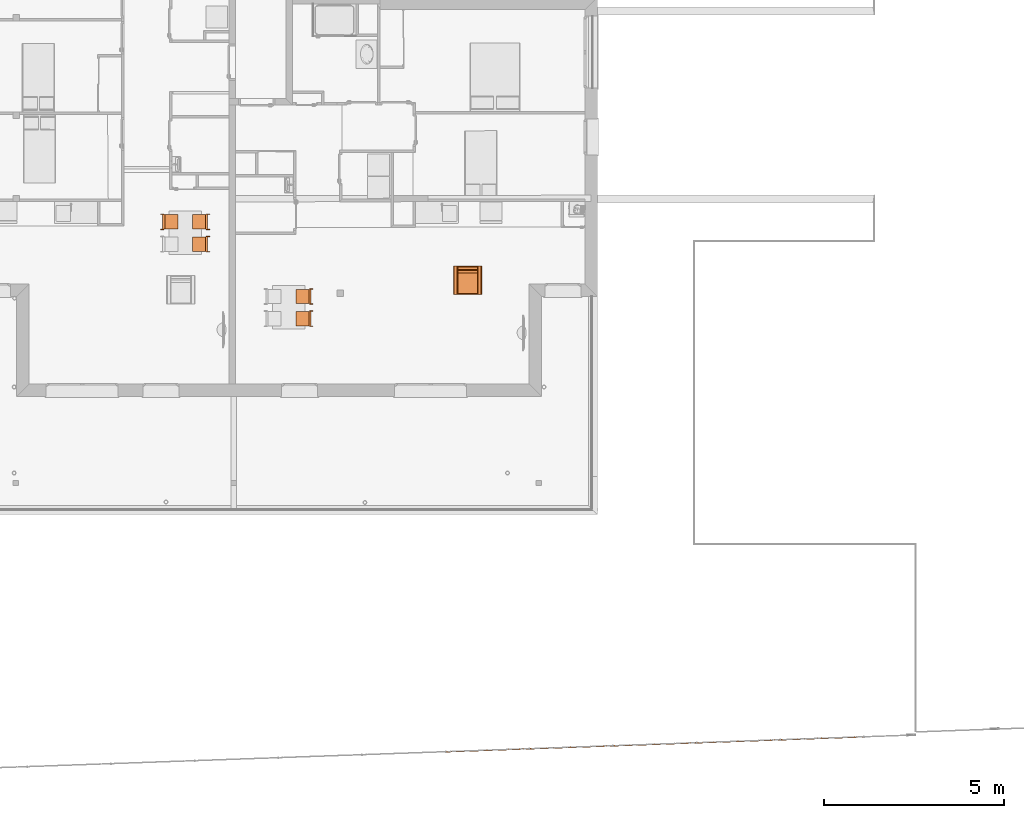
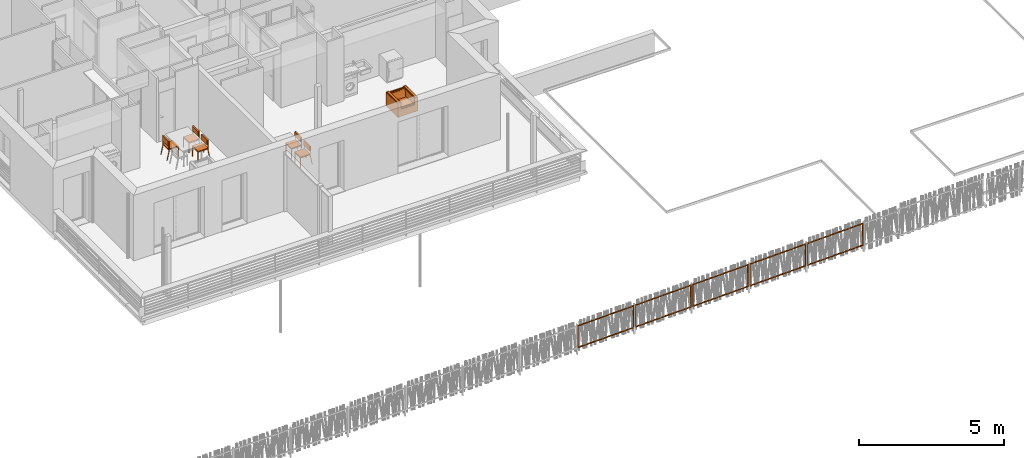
# One storey, part 147 of 171: 11 proxies.
"""IFC2X3 building model written with IfcOpenShell, lengths in millimetres."""

from ifc_helpers import new_model, entity, si_unit, converted_unit, derived_unit, money_unit, direction, frame, origin_with_axes, place, context, subcontext, project, spatial, faceted_brep, source, transform, mapped, type_object, element, save


model = new_model("IFC2X3")

# Units and contexts
model_context = context("Model", 3, precision=0.01, world=origin_with_axes(), true_north=direction((0.0, 1.0)))
body_context = subcontext(model_context, "Body", "Model", "MODEL_VIEW")
ifc_project = project(units=[si_unit("LENGTHUNIT", "METRE", prefix="MILLI"), si_unit("AREAUNIT", "SQUARE_METRE"), si_unit("VOLUMEUNIT", "CUBIC_METRE"), converted_unit("PLANEANGLEUNIT", "DEGREE", entity("IfcPlaneAngleMeasure", 0.0174532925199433), si_unit("PLANEANGLEUNIT", "RADIAN"), dimensions=[0, 0, 0, 0, 0, 0, 0]), money_unit("USD"), converted_unit("TIMEUNIT", "Year", entity("IfcTimeMeasure", 31557600.0), si_unit("TIMEUNIT", "SECOND"), dimensions=[0, 0, 1, 0, 0, 0, 0]), si_unit("MASSUNIT", "GRAM", prefix="KILO"), si_unit("THERMODYNAMICTEMPERATUREUNIT", "DEGREE_CELSIUS"), si_unit("LUMINOUSINTENSITYUNIT", "LUMEN"), si_unit("ENERGYUNIT", "JOULE", prefix="MEGA"), derived_unit("THERMALCONDUCTANCEUNIT", [(si_unit("POWERUNIT", "WATT"), 1), (si_unit("LENGTHUNIT", "METRE"), -1), (si_unit("THERMODYNAMICTEMPERATUREUNIT", "KELVIN"), -1)]), derived_unit("SPECIFICHEATCAPACITYUNIT", [(si_unit("ENERGYUNIT", "JOULE"), 1), (si_unit("MASSUNIT", "GRAM", prefix="KILO"), -1), (si_unit("THERMODYNAMICTEMPERATUREUNIT", "KELVIN"), -1)]), derived_unit("MASSDENSITYUNIT", [(si_unit("MASSUNIT", "GRAM", prefix="KILO"), 1), (si_unit("VOLUMEUNIT", "CUBIC_METRE"), -1)])], contexts=[model_context])

# Site, building, storey
site_placement = place(None, origin_with_axes())
site = spatial("IfcSite", under=ifc_project, at=site_placement, Name="Site", CompositionType="ELEMENT")
building_placement = place(site_placement, origin_with_axes())
building = spatial("IfcBuilding", under=site, at=building_placement, Name="Bâtiment", CompositionType="ELEMENT")
storey_placement = place(building_placement, frame((0.0, 0.0, 3000.0), z_axis=(0.0, 0.0, 1.0), x_axis=(1.0, 0.0, 0.0)))
storey = spatial("IfcBuildingStorey", under=building, at=storey_placement, Name="rdc", CompositionType="ELEMENT", Elevation=3000.0)

# Proxies
building_element_proxy_type = type_object("IfcBuildingElementProxyType", PredefinedType="NOTDEFINED")
shared_shape_1 = source(origin_with_axes(), body_context, "Body", "Brep", [
    faceted_brep([(39.99999978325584, 0.0, 0.0), (19.99999989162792, 0.0, 0.0), (19.99999989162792, 19.99999936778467, 0.0), (39.99999978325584, 19.99999936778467, 0.0), (39.99999978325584, 0.0, 400.0), (19.99999989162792, 0.0, 400.0), (19.99999989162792, 19.99999936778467, 400.0), (39.99999978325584, 19.99999936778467, 400.0)], [[[0, 1, 2, 3]], [[1, 0, 4, 5]], [[2, 1, 5, 6]], [[3, 2, 6, 7]], [[0, 3, 7, 4]], [[5, 4, 7, 6]]]),
    faceted_brep([(419.9999977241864, 0.0, 0.0), (399.9999978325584, 0.0, 0.0), (399.9999978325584, 19.99999936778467, 0.0), (419.9999977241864, 19.99999936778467, 0.0), (419.9999977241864, 0.0, 400.0), (399.9999978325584, 0.0, 400.0), (399.9999978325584, 19.99999936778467, 400.0), (419.9999977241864, 19.99999936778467, 400.0)], [[[0, 1, 2, 3]], [[1, 0, 4, 5]], [[2, 1, 5, 6]], [[3, 2, 6, 7]], [[0, 3, 7, 4]], [[5, 4, 7, 6]]]),
    faceted_brep([(399.9999978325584, 0.0, 400.0000000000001), (39.99999978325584, 0.0, 400.0000000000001), (39.99999978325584, 19.99999936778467, 400.0000000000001), (399.9999978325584, 19.99999936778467, 400.0000000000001), (399.9999978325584, 0.0, 420.0000000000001), (39.99999978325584, 0.0, 420.0000000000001), (39.99999978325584, 19.99999936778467, 420.0000000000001), (399.9999978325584, 19.99999936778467, 420.0000000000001)], [[[0, 1, 2, 3]], [[1, 0, 4, 5]], [[2, 1, 5, 6]], [[3, 2, 6, 7]], [[0, 3, 7, 4]], [[5, 4, 7, 6]]]),
    faceted_brep([(39.99999978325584, 19.99999936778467, 400.0000000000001), (19.99999989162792, 19.99999936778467, 400.0000000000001), (19.99999989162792, 379.9999879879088, 400.0000000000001), (39.99999978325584, 379.9999879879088, 400.0000000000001), (39.99999978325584, 19.99999936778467, 420.0000000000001), (19.99999989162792, 19.99999936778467, 420.0000000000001), (19.99999989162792, 379.9999879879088, 420.0000000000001), (39.99999978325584, 379.9999879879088, 420.0000000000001)], [[[0, 1, 2, 3]], [[1, 0, 4, 5]], [[2, 1, 5, 6]], [[3, 2, 6, 7]], [[0, 3, 7, 4]], [[5, 4, 7, 6]]]),
    faceted_brep([(419.9999977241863, 379.9999879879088, 400.0000000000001), (19.99999989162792, 379.9999879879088, 400.0000000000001), (19.99999989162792, 399.9999873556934, 400.0000000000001), (419.9999977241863, 399.9999873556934, 400.0000000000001), (419.9999977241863, 379.9999879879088, 420.0000000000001), (19.99999989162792, 379.9999879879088, 420.0000000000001), (19.99999989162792, 399.9999873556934, 420.0000000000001), (419.9999977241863, 399.9999873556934, 420.0000000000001)], [[[0, 1, 2, 3]], [[1, 0, 4, 5]], [[2, 1, 5, 6]], [[3, 2, 6, 7]], [[0, 3, 7, 4]], [[5, 4, 7, 6]]]),
    faceted_brep([(419.9999977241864, 19.99999936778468, 400.0000000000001), (399.9999978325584, 19.99999936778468, 400.0000000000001), (399.9999978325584, 379.9999879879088, 400.0000000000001), (419.9999977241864, 379.9999879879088, 400.0000000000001), (419.9999977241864, 19.99999936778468, 420.0000000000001), (399.9999978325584, 19.99999936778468, 420.0000000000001), (399.9999978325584, 379.9999879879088, 420.0000000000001), (419.9999977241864, 379.9999879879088, 420.0000000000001)], [[[0, 1, 2, 3]], [[1, 0, 4, 5]], [[2, 1, 5, 6]], [[3, 2, 6, 7]], [[0, 3, 7, 4]], [[5, 4, 7, 6]]]),
    faceted_brep([(419.9999977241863, 0.0, 400.0), (19.99999989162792, 0.0, 400.0), (19.99999989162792, 399.9999873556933, 400.0), (419.9999977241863, 399.9999873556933, 400.0), (419.9999977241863, 0.0, 450.0), (19.99999989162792, 0.0, 450.0), (19.99999989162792, 399.9999873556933, 450.0), (419.9999977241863, 399.9999873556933, 450.0)], [[[0, 1, 2, 3]], [[1, 0, 4, 5]], [[2, 1, 5, 6]], [[3, 2, 6, 7]], [[0, 3, 7, 4]], [[5, 4, 7, 6]]]),
    faceted_brep([(19.99999989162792, 379.9999879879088, 380.0), (0.0, 379.9999879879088, 380.0), (0.0, 399.9999873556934, 380.0), (19.99999989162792, 399.9999873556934, 380.0), (19.99999989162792, 379.9999879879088, 780.0), (0.0, 379.9999879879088, 780.0), (0.0, 399.9999873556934, 780.0), (19.99999989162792, 399.9999873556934, 780.0)], [[[0, 1, 2, 3]], [[1, 0, 4, 5]], [[2, 1, 5, 6]], [[3, 2, 6, 7]], [[0, 3, 7, 4]], [[5, 4, 7, 6]]]),
    faceted_brep([(439.9999976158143, 379.9999879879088, 380.0), (419.9999977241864, 379.9999879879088, 380.0), (419.9999977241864, 399.9999873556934, 380.0), (439.9999976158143, 399.9999873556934, 380.0), (439.9999976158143, 379.9999879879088, 780.0), (419.9999977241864, 379.9999879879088, 780.0), (419.9999977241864, 399.9999873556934, 780.0), (439.9999976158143, 399.9999873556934, 780.0)], [[[0, 1, 2, 3]], [[1, 0, 4, 5]], [[2, 1, 5, 6]], [[3, 2, 6, 7]], [[0, 3, 7, 4]], [[5, 4, 7, 6]]]),
    faceted_brep([(419.9999977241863, 359.999988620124, 580.0000000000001), (19.99999989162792, 359.999988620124, 580.0000000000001), (19.99999989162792, 419.9999867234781, 580.0000000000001), (419.9999977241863, 419.9999867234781, 580.0000000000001), (419.9999977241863, 359.999988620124, 780.0), (19.99999989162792, 359.999988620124, 780.0), (19.99999989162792, 419.9999867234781, 780.0), (419.9999977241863, 419.9999867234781, 780.0)], [[[0, 1, 2, 3]], [[1, 0, 4, 5]], [[2, 1, 5, 6]], [[3, 2, 6, 7]], [[0, 3, 7, 4]], [[5, 4, 7, 6]]]),
    faceted_brep([(19.99999989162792, 459.9999854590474, 0.0), (0.0, 459.9999854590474, 0.0), (0.0, 479.5709559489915, 4.120326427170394), (19.99999989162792, 479.5709559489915, 4.120326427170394), (19.99999989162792, 379.997669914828, 379.999760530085), (0.0, 379.997669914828, 379.999760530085), (0.0, 399.5686404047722, 384.1200869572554), (19.99999989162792, 399.5686404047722, 384.1200869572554)], [[[0, 1, 2, 3]], [[1, 0, 4, 5]], [[2, 1, 5, 6]], [[3, 2, 6, 7]], [[0, 3, 7, 4]], [[5, 4, 7, 6]]]),
    faceted_brep([(439.9999976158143, 459.9999854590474, 0.0), (419.9999977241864, 459.9999854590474, 0.0), (419.9999977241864, 479.5709559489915, 4.120326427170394), (439.9999976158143, 479.5709559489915, 4.120326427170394), (439.9999976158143, 379.997669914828, 379.999760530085), (419.9999977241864, 379.997669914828, 379.999760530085), (419.9999977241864, 399.5686404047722, 384.1200869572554), (439.9999976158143, 399.5686404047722, 384.1200869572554)], [[[0, 1, 2, 3]], [[1, 0, 4, 5]], [[2, 1, 5, 6]], [[3, 2, 6, 7]], [[0, 3, 7, 4]], [[5, 4, 7, 6]]]),
])
for number, where, z_axis, x_axis, name in (
    (1, (2223118.75109592, -652753.7534204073, 0.0), (0.0, 0.0, 1.0), (-8.510155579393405e-05, -0.9999999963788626, 0.0), "Obj.-027"),
    (2, (2225988.243839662, -654823.1843486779, 0.0), (0.0, 0.0, 1.0), (-8.510155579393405e-05, -0.9999999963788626, 0.0), "Obj.-027"),
    (3, (2223118.698747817, -653368.8788230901, 0.0), (0.0, 0.0, 1.0), (-8.510155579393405e-05, -0.9999999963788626, 0.0), "Obj.-027"),
    (4, (2225988.191491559, -655438.3097513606, 0.0), (0.0, 0.0, 1.0), (-8.510155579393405e-05, -0.9999999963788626, 0.0), "Obj.-027"),
):
    element("IfcBuildingElementProxy", number, at=place(storey_placement, frame(where, z_axis=z_axis, x_axis=x_axis)), inside=storey, type_object=building_element_proxy_type, Name=name, context=body_context, shape_type="MappedRepresentation", body=[
        mapped(shared_shape_1, transform((0.0, 0.0, 0.0))),
    ])
shared_shape_2 = source(origin_with_axes(), body_context, "Body", "Brep", [
    faceted_brep([(-39.99999978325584, 0.0, 0.0), (-39.99999978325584, 19.99999936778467, 0.0), (-19.99999989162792, 19.99999936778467, 0.0), (-19.99999989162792, 0.0, 0.0), (-39.99999978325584, 0.0, 400.0), (-39.99999978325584, 19.99999936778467, 400.0), (-19.99999989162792, 19.99999936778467, 400.0), (-19.99999989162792, 0.0, 400.0)], [[[0, 1, 2, 3]], [[0, 4, 5, 1]], [[1, 5, 6, 2]], [[2, 6, 7, 3]], [[3, 7, 4, 0]], [[7, 6, 5, 4]]]),
    faceted_brep([(-419.9999977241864, 0.0, 0.0), (-419.9999977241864, 19.99999936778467, 0.0), (-399.9999978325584, 19.99999936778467, 0.0), (-399.9999978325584, 0.0, 0.0), (-419.9999977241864, 0.0, 400.0), (-419.9999977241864, 19.99999936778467, 400.0), (-399.9999978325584, 19.99999936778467, 400.0), (-399.9999978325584, 0.0, 400.0)], [[[0, 1, 2, 3]], [[0, 4, 5, 1]], [[1, 5, 6, 2]], [[2, 6, 7, 3]], [[3, 7, 4, 0]], [[7, 6, 5, 4]]]),
    faceted_brep([(-399.9999978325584, 0.0, 400.0000000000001), (-399.9999978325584, 19.99999936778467, 400.0000000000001), (-39.99999978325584, 19.99999936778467, 400.0000000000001), (-39.99999978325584, 0.0, 400.0000000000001), (-399.9999978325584, 0.0, 420.0000000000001), (-399.9999978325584, 19.99999936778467, 420.0000000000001), (-39.99999978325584, 19.99999936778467, 420.0000000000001), (-39.99999978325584, 0.0, 420.0000000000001)], [[[0, 1, 2, 3]], [[0, 4, 5, 1]], [[1, 5, 6, 2]], [[2, 6, 7, 3]], [[3, 7, 4, 0]], [[7, 6, 5, 4]]]),
    faceted_brep([(-39.99999978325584, 19.99999936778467, 400.0000000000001), (-39.99999978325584, 379.9999879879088, 400.0000000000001), (-19.99999989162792, 379.9999879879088, 400.0000000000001), (-19.99999989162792, 19.99999936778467, 400.0000000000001), (-39.99999978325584, 19.99999936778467, 420.0000000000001), (-39.99999978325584, 379.9999879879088, 420.0000000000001), (-19.99999989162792, 379.9999879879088, 420.0000000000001), (-19.99999989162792, 19.99999936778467, 420.0000000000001)], [[[0, 1, 2, 3]], [[0, 4, 5, 1]], [[1, 5, 6, 2]], [[2, 6, 7, 3]], [[3, 7, 4, 0]], [[7, 6, 5, 4]]]),
    faceted_brep([(-419.9999977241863, 379.9999879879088, 400.0000000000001), (-419.9999977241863, 399.9999873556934, 400.0000000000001), (-19.99999989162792, 399.9999873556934, 400.0000000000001), (-19.99999989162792, 379.9999879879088, 400.0000000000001), (-419.9999977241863, 379.9999879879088, 420.0000000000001), (-419.9999977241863, 399.9999873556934, 420.0000000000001), (-19.99999989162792, 399.9999873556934, 420.0000000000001), (-19.99999989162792, 379.9999879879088, 420.0000000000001)], [[[0, 1, 2, 3]], [[0, 4, 5, 1]], [[1, 5, 6, 2]], [[2, 6, 7, 3]], [[3, 7, 4, 0]], [[7, 6, 5, 4]]]),
    faceted_brep([(-419.9999977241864, 19.99999936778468, 400.0000000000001), (-419.9999977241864, 379.9999879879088, 400.0000000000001), (-399.9999978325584, 379.9999879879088, 400.0000000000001), (-399.9999978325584, 19.99999936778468, 400.0000000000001), (-419.9999977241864, 19.99999936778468, 420.0000000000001), (-419.9999977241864, 379.9999879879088, 420.0000000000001), (-399.9999978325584, 379.9999879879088, 420.0000000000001), (-399.9999978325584, 19.99999936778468, 420.0000000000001)], [[[0, 1, 2, 3]], [[0, 4, 5, 1]], [[1, 5, 6, 2]], [[2, 6, 7, 3]], [[3, 7, 4, 0]], [[7, 6, 5, 4]]]),
    faceted_brep([(-419.9999977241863, 0.0, 400.0), (-419.9999977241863, 399.9999873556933, 400.0), (-19.99999989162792, 399.9999873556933, 400.0), (-19.99999989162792, 0.0, 400.0), (-419.9999977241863, 0.0, 450.0), (-419.9999977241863, 399.9999873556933, 450.0), (-19.99999989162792, 399.9999873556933, 450.0), (-19.99999989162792, 0.0, 450.0)], [[[0, 1, 2, 3]], [[0, 4, 5, 1]], [[1, 5, 6, 2]], [[2, 6, 7, 3]], [[3, 7, 4, 0]], [[7, 6, 5, 4]]]),
    faceted_brep([(-19.99999989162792, 379.9999879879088, 380.0), (-19.99999989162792, 399.9999873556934, 380.0), (0.0, 399.9999873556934, 380.0), (0.0, 379.9999879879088, 380.0), (-19.99999989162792, 379.9999879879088, 780.0), (-19.99999989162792, 399.9999873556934, 780.0), (0.0, 399.9999873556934, 780.0), (0.0, 379.9999879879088, 780.0)], [[[0, 1, 2, 3]], [[0, 4, 5, 1]], [[1, 5, 6, 2]], [[2, 6, 7, 3]], [[3, 7, 4, 0]], [[7, 6, 5, 4]]]),
    faceted_brep([(-439.9999976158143, 379.9999879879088, 380.0), (-439.9999976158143, 399.9999873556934, 380.0), (-419.9999977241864, 399.9999873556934, 380.0), (-419.9999977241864, 379.9999879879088, 380.0), (-439.9999976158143, 379.9999879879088, 780.0), (-439.9999976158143, 399.9999873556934, 780.0), (-419.9999977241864, 399.9999873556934, 780.0), (-419.9999977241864, 379.9999879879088, 780.0)], [[[0, 1, 2, 3]], [[0, 4, 5, 1]], [[1, 5, 6, 2]], [[2, 6, 7, 3]], [[3, 7, 4, 0]], [[7, 6, 5, 4]]]),
    faceted_brep([(-419.9999977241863, 359.999988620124, 580.0000000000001), (-419.9999977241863, 419.9999867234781, 580.0000000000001), (-19.99999989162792, 419.9999867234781, 580.0000000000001), (-19.99999989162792, 359.999988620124, 580.0000000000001), (-419.9999977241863, 359.999988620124, 780.0), (-419.9999977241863, 419.9999867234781, 780.0), (-19.99999989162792, 419.9999867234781, 780.0), (-19.99999989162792, 359.999988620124, 780.0)], [[[0, 1, 2, 3]], [[0, 4, 5, 1]], [[1, 5, 6, 2]], [[2, 6, 7, 3]], [[3, 7, 4, 0]], [[7, 6, 5, 4]]]),
    faceted_brep([(-19.99999989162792, 459.9999854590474, 0.0), (-19.99999989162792, 479.5709559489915, 4.120326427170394), (0.0, 479.5709559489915, 4.120326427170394), (0.0, 459.9999854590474, 0.0), (-19.99999989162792, 379.997669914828, 379.999760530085), (-19.99999989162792, 399.5686404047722, 384.1200869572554), (0.0, 399.5686404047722, 384.1200869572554), (0.0, 379.997669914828, 379.999760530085)], [[[0, 1, 2, 3]], [[0, 4, 5, 1]], [[1, 5, 6, 2]], [[2, 6, 7, 3]], [[3, 7, 4, 0]], [[7, 6, 5, 4]]]),
    faceted_brep([(-439.9999976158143, 459.9999854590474, 0.0), (-439.9999976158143, 479.5709559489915, 4.120326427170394), (-419.9999977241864, 479.5709559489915, 4.120326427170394), (-419.9999977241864, 459.9999854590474, 0.0), (-439.9999976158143, 379.997669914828, 379.999760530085), (-439.9999976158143, 399.5686404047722, 384.1200869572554), (-419.9999977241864, 399.5686404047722, 384.1200869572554), (-419.9999977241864, 379.997669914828, 379.999760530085)], [[[0, 1, 2, 3]], [[0, 4, 5, 1]], [[1, 5, 6, 2]], [[2, 6, 7, 3]], [[3, 7, 4, 0]], [[7, 6, 5, 4]]]),
])
proxy_1_placement = place(storey_placement, frame((2222710.693713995, -652753.7186940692, 0.0), z_axis=(0.0, 0.0, 1.0), x_axis=(8.510155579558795e-05, 0.9999999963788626, 0.0)))
element("IfcBuildingElementProxy", 5, at=proxy_1_placement, inside=storey, type_object=building_element_proxy_type, Name="Obj.-027", context=body_context, shape_type="MappedRepresentation", body=[
    mapped(shared_shape_2, transform((0.0, 0.0, 0.0))),
])
shared_shape_3 = source(origin_with_axes(), body_context, "Body", "Brep", [
    faceted_brep([(333.3000000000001, 66.7, 0.0), (300.0000000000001, 66.7, 0.0), (300.0000000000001, 100.0, 0.0), (333.3000000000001, 100.0, 0.0), (333.3000000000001, 66.7, 66.69999999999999), (300.0000000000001, 66.7, 66.69999999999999), (300.0000000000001, 100.0, 66.69999999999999), (333.3000000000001, 100.0, 66.69999999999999)], [[[0, 1, 2, 3]], [[1, 0, 4, 5]], [[2, 1, 5, 6]], [[3, 2, 6, 7]], [[0, 3, 7, 4]], [[5, 4, 7, 6]]]),
    faceted_brep([(333.3000000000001, 700.0000000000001, 0.0), (300.0000000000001, 700.0000000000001, 0.0), (300.0000000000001, 733.3000000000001, 0.0), (333.3000000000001, 733.3000000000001, 0.0), (333.3000000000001, 700.0000000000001, 66.69999999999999), (300.0000000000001, 700.0000000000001, 66.69999999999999), (300.0000000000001, 733.3000000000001, 66.69999999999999), (333.3000000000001, 733.3000000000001, 66.69999999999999)], [[[0, 1, 2, 3]], [[1, 0, 4, 5]], [[2, 1, 5, 6]], [[3, 2, 6, 7]], [[0, 3, 7, 4]], [[5, 4, 7, 6]]]),
    faceted_brep([(-300.0000000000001, 66.7, 0.0), (-333.3000000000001, 66.7, 0.0), (-333.3000000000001, 100.0, 0.0), (-300.0000000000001, 100.0, 0.0), (-300.0000000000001, 66.7, 66.69999999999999), (-333.3000000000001, 66.7, 66.69999999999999), (-333.3000000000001, 100.0, 66.69999999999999), (-300.0000000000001, 100.0, 66.69999999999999)], [[[0, 1, 2, 3]], [[1, 0, 4, 5]], [[2, 1, 5, 6]], [[3, 2, 6, 7]], [[0, 3, 7, 4]], [[5, 4, 7, 6]]]),
    faceted_brep([(-300.0000000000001, 700.0000000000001, 0.0), (-333.3000000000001, 700.0000000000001, 0.0), (-333.3000000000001, 733.3000000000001, 0.0), (-300.0000000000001, 733.3000000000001, 0.0), (-300.0000000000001, 700.0000000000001, 66.69999999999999), (-333.3000000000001, 700.0000000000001, 66.69999999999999), (-333.3000000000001, 733.3000000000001, 66.69999999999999), (-300.0000000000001, 733.3000000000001, 66.69999999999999)], [[[0, 1, 2, 3]], [[1, 0, 4, 5]], [[2, 1, 5, 6]], [[3, 2, 6, 7]], [[0, 3, 7, 4]], [[5, 4, 7, 6]]]),
    faceted_brep([(266.7, 800.0, 66.69999999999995), (400.033, 800.0, 66.69999999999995), (400.033, 0.0, 66.69999999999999), (266.7, 0.0, 66.69999999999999), (266.7, 800.0, 67.19999999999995), (266.7, 800.0, 633.37), (266.7, 800.0, 636.2859999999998), (267.713, 800.0, 642.029), (269.707, 800.0, 647.5099999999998), (272.623, 800.0, 652.5599999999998), (276.372, 800.0, 657.0279999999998), (280.84, 800.0, 660.7769999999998), (285.89, 800.0, 663.6929999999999), (291.371, 800.0, 665.6869999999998), (297.114, 800.0, 666.6999999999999), (300.03, 800.0, 666.6999999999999), (366.703, 800.0, 666.6999999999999), (369.619, 800.0, 666.6999999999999), (375.363, 800.0, 665.6869999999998), (380.843, 800.0, 663.6929999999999), (385.894, 800.0, 660.7769999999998), (390.361, 800.0, 657.0279999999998), (394.11, 800.0, 652.5599999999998), (397.026, 800.0, 647.5099999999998), (399.021, 800.0, 642.029), (400.033, 800.0, 636.2859999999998), (400.033, 800.0, 633.37), (400.033, 0.0, 633.37), (400.033, 0.0, 636.2859999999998), (399.021, 0.0, 642.029), (397.026, 0.0, 647.5099999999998), (394.11, 0.0, 652.5599999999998), (390.361, 0.0, 657.0279999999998), (385.894, 0.0, 660.7769999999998), (380.843, 0.0, 663.6929999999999), (375.363, 0.0, 665.6869999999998), (369.619, 0.0, 666.6999999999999), (366.703, 0.0, 666.6999999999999), (300.03, 0.0, 666.6999999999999), (297.114, 0.0, 666.6999999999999), (291.371, 0.0, 665.6869999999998), (285.89, 0.0, 663.6929999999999), (280.84, 0.0, 660.7769999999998), (276.372, 0.0, 657.0279999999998), (272.623, 0.0, 652.5599999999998), (269.707, 0.0, 647.5099999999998), (267.713, 0.0, 642.029), (266.7, 0.0, 636.2859999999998), (266.7, 0.0, 633.37), (266.7, 0.0, 67.19999999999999)], [[[0, 1, 2, 3]], [[0, 4, 5, 6, 7, 8, 9, 10, 11, 12, 13, 14, 15, 16, 17, 18, 19, 20, 21, 22, 23, 24, 25, 26, 1]], [[1, 26, 27, 2]], [[3, 2, 27, 28, 29, 30, 31, 32, 33, 34, 35, 36, 37, 38, 39, 40, 41, 42, 43, 44, 45, 46, 47, 48, 49]], [[4, 0, 3, 49]], [[5, 4, 49, 48]], [[6, 5, 48, 47]], [[7, 6, 47, 46]], [[8, 7, 46, 45]], [[9, 8, 45, 44]], [[10, 9, 44, 43]], [[11, 10, 43, 42]], [[12, 11, 42, 41]], [[13, 12, 41, 40]], [[14, 13, 40, 39]], [[15, 14, 39, 38]], [[16, 15, 38, 37]], [[17, 16, 37, 36]], [[18, 17, 36, 35]], [[19, 18, 35, 34]], [[20, 19, 34, 33]], [[21, 20, 33, 32]], [[22, 21, 32, 31]], [[23, 22, 31, 30]], [[24, 23, 30, 29]], [[25, 24, 29, 28]], [[26, 25, 28, 27]]]),
    faceted_brep([(-400.0, 800.0, 66.69999999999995), (-266.667, 800.0, 66.69999999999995), (-266.667, 0.0, 66.69999999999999), (-400.0, 0.0, 66.69999999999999), (-400.0, 800.0, 67.19999999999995), (-400.0, 800.0, 633.37), (-400.0, 800.0, 636.2859999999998), (-398.987, 800.0, 642.029), (-396.9930000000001, 800.0, 647.5099999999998), (-394.077, 800.0, 652.5599999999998), (-390.328, 800.0, 657.0279999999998), (-385.86, 800.0, 660.7769999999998), (-380.8100000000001, 800.0, 663.6929999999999), (-375.329, 800.0, 665.6869999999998), (-369.586, 800.0, 666.6999999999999), (-366.67, 800.0, 666.6999999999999), (-299.997, 800.0, 666.6999999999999), (-297.081, 800.0, 666.6999999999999), (-291.337, 800.0, 665.6869999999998), (-285.857, 800.0, 663.6929999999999), (-280.806, 800.0, 660.7769999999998), (-276.339, 800.0, 657.0279999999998), (-272.59, 800.0, 652.5599999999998), (-269.674, 800.0, 647.5099999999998), (-267.679, 800.0, 642.029), (-266.667, 800.0, 636.2859999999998), (-266.667, 800.0, 633.37), (-266.667, 0.0, 633.37), (-266.667, 0.0, 636.2859999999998), (-267.679, 0.0, 642.029), (-269.674, 0.0, 647.5099999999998), (-272.59, 0.0, 652.5599999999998), (-276.339, 0.0, 657.0279999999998), (-280.806, 0.0, 660.7769999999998), (-285.857, 0.0, 663.6929999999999), (-291.337, 0.0, 665.6869999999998), (-297.081, 0.0, 666.6999999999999), (-299.997, 0.0, 666.6999999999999), (-366.67, 0.0, 666.6999999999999), (-369.586, 0.0, 666.6999999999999), (-375.329, 0.0, 665.6869999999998), (-380.8100000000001, 0.0, 663.6929999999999), (-385.86, 0.0, 660.7769999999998), (-390.328, 0.0, 657.0279999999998), (-394.077, 0.0, 652.5599999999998), (-396.9930000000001, 0.0, 647.5099999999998), (-398.987, 0.0, 642.029), (-400.0, 0.0, 636.2859999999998), (-400.0, 0.0, 633.37), (-400.0, 0.0, 67.19999999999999)], [[[0, 1, 2, 3]], [[0, 4, 5, 6, 7, 8, 9, 10, 11, 12, 13, 14, 15, 16, 17, 18, 19, 20, 21, 22, 23, 24, 25, 26, 1]], [[1, 26, 27, 2]], [[3, 2, 27, 28, 29, 30, 31, 32, 33, 34, 35, 36, 37, 38, 39, 40, 41, 42, 43, 44, 45, 46, 47, 48, 49]], [[4, 0, 3, 49]], [[5, 4, 49, 48]], [[6, 5, 48, 47]], [[7, 6, 47, 46]], [[8, 7, 46, 45]], [[9, 8, 45, 44]], [[10, 9, 44, 43]], [[11, 10, 43, 42]], [[12, 11, 42, 41]], [[13, 12, 41, 40]], [[14, 13, 40, 39]], [[15, 14, 39, 38]], [[16, 15, 38, 37]], [[17, 16, 37, 36]], [[18, 17, 36, 35]], [[19, 18, 35, 34]], [[20, 19, 34, 33]], [[21, 20, 33, 32]], [[22, 21, 32, 31]], [[23, 22, 31, 30]], [[24, 23, 30, 29]], [[25, 24, 29, 28]], [[26, 25, 28, 27]]]),
    faceted_brep([(-266.6667, 0.0, 66.69999999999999), (-266.6667, 800.0, 66.69999999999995), (266.6333, 800.0, 66.69999999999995), (266.6333, 0.0, 66.69999999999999), (-266.6667, 0.0, 67.2), (-266.6667, 0.0, 325.5449999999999), (-266.6667, -0.2359999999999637, 327.1109999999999), (-266.6667, 1.052000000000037, 338.7049999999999), (-266.6667, 4.334000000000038, 349.8989999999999), (-266.6667, 9.510000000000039, 360.3539999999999), (-266.6667, 16.42300000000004, 369.7509999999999), (-266.6667, 24.86200000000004, 377.8049999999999), (-266.6667, 34.57200000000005, 384.271), (-266.6667, 45.25800000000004, 388.9519999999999), (-266.6667, 56.59300000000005, 391.707), (-266.6667, 68.23500000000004, 392.4519999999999), (-266.6667, 74.03200000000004, 391.808), (-266.6667, 600.0000000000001, 333.3669999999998), (-266.6667, 600.0980000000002, 333.8569999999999), (-266.6667, 655.9480000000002, 613.1049999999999), (-266.6667, 656.6790000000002, 617.351), (-266.6667, 660.6690000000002, 628.314), (-266.6667, 666.5020000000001, 638.4159999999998), (-266.6667, 674.0000000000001, 647.3529999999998), (-266.6667, 682.937, 654.8509999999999), (-266.6667, 693.0390000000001, 660.6839999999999), (-266.6667, 704.0020000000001, 664.6739999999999), (-266.6667, 715.4900000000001, 666.6999999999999), (-266.6667, 721.3230000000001, 666.6999999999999), (-266.6667, 733.33, 666.6999999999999), (-266.6667, 739.163, 666.6999999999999), (-266.6667, 750.6510000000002, 664.6739999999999), (-266.6667, 761.614, 660.6839999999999), (-266.6667, 771.716, 654.8509999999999), (-266.6667, 780.653, 647.3529999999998), (-266.6667, 788.1510000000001, 638.4159999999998), (-266.6667, 793.984, 628.314), (-266.6667, 797.974, 617.351), (-266.6667, 800.0, 605.8629999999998), (-266.6667, 800.0, 600.0299999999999), (266.6333, 800.0, 600.0299999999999), (266.6333, 800.0, 605.8629999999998), (266.6333, 797.974, 617.351), (266.6333, 793.984, 628.314), (266.6333, 788.1510000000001, 638.4159999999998), (266.6333, 780.653, 647.3529999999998), (266.6333, 771.716, 654.8509999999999), (266.6333, 761.614, 660.6839999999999), (266.6333, 750.6510000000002, 664.6739999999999), (266.6333, 739.163, 666.6999999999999), (266.6333, 733.33, 666.6999999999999), (266.6333, 721.3230000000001, 666.6999999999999), (266.6333, 715.4900000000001, 666.6999999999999), (266.6333, 704.0020000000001, 664.6739999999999), (266.6333, 693.0390000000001, 660.6839999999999), (266.6333, 682.937, 654.8509999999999), (266.6333, 674.0000000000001, 647.3529999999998), (266.6333, 666.5020000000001, 638.4159999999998), (266.6333, 660.6690000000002, 628.314), (266.6333, 656.6790000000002, 617.351), (266.6333, 655.9480000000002, 613.1049999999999), (266.6333, 600.0980000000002, 333.8569999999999), (266.6333, 600.0000000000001, 333.3669999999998), (266.6333, 74.03200000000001, 391.808), (266.6333, 68.23500000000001, 392.4519999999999), (266.6333, 56.59300000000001, 391.707), (266.6333, 45.25800000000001, 388.9519999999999), (266.6333, 34.57200000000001, 384.271), (266.6333, 24.86200000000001, 377.8049999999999), (266.6333, 16.42300000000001, 369.7509999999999), (266.6333, 9.510000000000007, 360.3539999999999), (266.6333, 4.334000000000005, 349.8989999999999), (266.6333, 1.052000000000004, 338.7049999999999), (266.6333, -0.2359999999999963, 327.1109999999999), (266.6333, 0.0, 325.5449999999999), (266.6333, 0.0, 67.2)], [[[0, 1, 2, 3]], [[0, 4, 5, 6, 7, 8, 9, 10, 11, 12, 13, 14, 15, 16, 17, 18, 19, 20, 21, 22, 23, 24, 25, 26, 27, 28, 29, 30, 31, 32, 33, 34, 35, 36, 37, 38, 39, 1]], [[1, 39, 40, 2]], [[3, 2, 40, 41, 42, 43, 44, 45, 46, 47, 48, 49, 50, 51, 52, 53, 54, 55, 56, 57, 58, 59, 60, 61, 62, 63, 64, 65, 66, 67, 68, 69, 70, 71, 72, 73, 74, 75]], [[4, 0, 3, 75]], [[5, 4, 75, 74]], [[6, 5, 74, 73]], [[7, 6, 73, 72]], [[8, 7, 72, 71]], [[9, 8, 71, 70]], [[10, 9, 70, 69]], [[11, 10, 69, 68]], [[12, 11, 68, 67]], [[13, 12, 67, 66]], [[14, 13, 66, 65]], [[15, 14, 65, 64]], [[16, 15, 64, 63]], [[17, 16, 63, 62]], [[18, 17, 62, 61]], [[19, 18, 61, 60]], [[20, 19, 60, 59]], [[21, 20, 59, 58]], [[22, 21, 58, 57]], [[23, 22, 57, 56]], [[24, 23, 56, 55]], [[25, 24, 55, 54]], [[26, 25, 54, 53]], [[27, 26, 53, 52]], [[28, 27, 52, 51]], [[29, 28, 51, 50]], [[30, 29, 50, 49]], [[31, 30, 49, 48]], [[32, 31, 48, 47]], [[33, 32, 47, 46]], [[34, 33, 46, 45]], [[35, 34, 45, 44]], [[36, 35, 44, 43]], [[37, 36, 43, 42]], [[38, 37, 42, 41]], [[39, 38, 41, 40]]]),
])
proxy_2_placement = place(storey_placement, frame((2230757.748689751, -654992.4235003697, 0.0), z_axis=(0.0, 0.0, 1.0), x_axis=(1.0, 0.0, 0.0)))
element("IfcBuildingElementProxy", 6, at=proxy_2_placement, inside=storey, type_object=building_element_proxy_type, Name="Obj.-034", context=body_context, shape_type="MappedRepresentation", body=[
    mapped(shared_shape_3, transform((0.0, 0.0, 0.0))),
])
shared_shape_4 = source(origin_with_axes(), body_context, "Body", "Brep", [
    faceted_brep([(0.0, 0.0, 50.0), (2294.467978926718, 0.0, 50.0), (2294.467978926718, -40.0, 50.0), (0.0, -40.0, 50.0), (0.0, 0.0, 1000.0), (2294.467978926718, 0.0, 1000.0), (40.0, 0.0, 90.0), (2254.467978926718, 0.0, 90.0), (2254.467978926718, 0.0, 960.0), (40.0, 0.0, 960.0), (2294.467978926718, -39.99999999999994, 1000.0), (0.0, -39.99999999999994, 1000.0), (40.0, -39.99999999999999, 90.0), (40.0, -39.99999999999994, 960.0), (2254.467978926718, -39.99999999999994, 960.0), (2254.467978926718, -39.99999999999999, 90.0)], [[[0, 1, 2, 3]], [[0, 4, 5, 1], [6, 7, 8, 9]], [[1, 5, 10, 2]], [[3, 2, 10, 11], [12, 13, 14, 15]], [[4, 0, 3, 11]], [[5, 4, 11, 10]], [[7, 6, 12, 15]], [[8, 7, 15, 14]], [[9, 8, 14, 13]], [[6, 9, 13, 12]]]),
])
for number, where, z_axis, x_axis, name in (
    (7, (2241746.798988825, -667288.9869535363, -1900.0), (0.0, 0.0, 1.0), (-0.9993632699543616, -0.03567989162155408, 0.0), "Obj.-047"),
    (8, (2239423.811068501, -667371.9237191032, -1900.0), (0.0, 0.0, 1.0), (-0.9993632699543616, -0.03567989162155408, 0.0), "Obj.-047"),
    (9, (2237100.823148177, -667454.86048467, -1900.0), (0.0, 0.0, 1.0), (-0.9993632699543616, -0.03567989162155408, 0.0), "Obj.-047"),
    (10, (2234777.835227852, -667537.7972502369, -1900.0), (0.0, 0.0, 1.0), (-0.9993632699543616, -0.03567989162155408, 0.0), "Obj.-047"),
    (11, (2232454.847307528, -667620.7340158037, -1900.0), (0.0, 0.0, 1.0), (-0.9993632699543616, -0.03567989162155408, 0.0), "Obj.-047"),
):
    element("IfcBuildingElementProxy", number, at=place(storey_placement, frame(where, z_axis=z_axis, x_axis=x_axis)), inside=storey, type_object=building_element_proxy_type, Name=name, context=body_context, shape_type="MappedRepresentation", body=[
        mapped(shared_shape_4, transform((0.0, 0.0, 0.0))),
    ])

save(model, "model.ifc")
